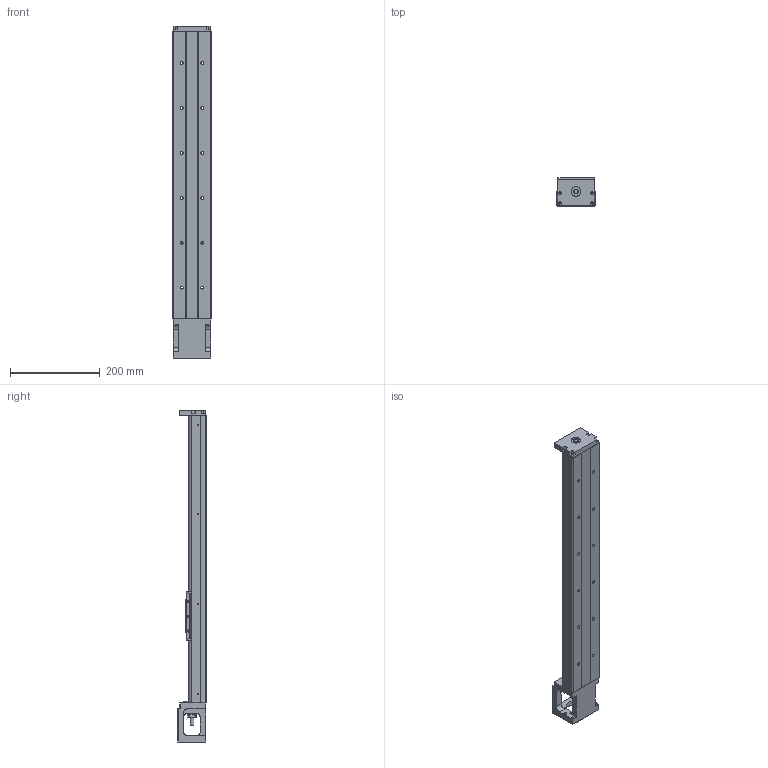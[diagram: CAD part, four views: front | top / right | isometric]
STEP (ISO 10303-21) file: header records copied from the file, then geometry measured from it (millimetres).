
FILE_DESCRIPTION(/* description */ (''),/* implementation_level */ '2;1');
FILE_NAME(/* name */ 'KP46N-640.stp',/* time_stamp */ '2020-06-05T09:54:47+08:00',/* author */ (''),/* organization */ (''),/* preprocessor_version */ 'ST-DEVELOPER v14',/* originating_system */ 'SIEMENS PLM Software NX 8.0',/* authorisation */ '');
FILE_SCHEMA (('AUTOMOTIVE_DESIGN { 1 0 10303 214 3 1 1 1 }'));
Length unit declared in the file: millimetre
Products named in the file (1): model1
Bounding box: 86 x 64 x 740 mm (x, y, z)
Volume: 1519476.8 mm3; surface area: 328684.4 mm2
Topology: 5 solids, 13 shells, 644 faces, 1693 edges, 1107 vertices
Faces by surface type: plane 288, cylinder 233, cone 62, bspline 53, torus 8
Full cylindrical faces by diameter (mm): 2.11 x4, 2.15 x8, 2.42 x8, 3 x6, 3.2 x4, 3.3 x8, 3.4 x8, 4.2 x4, 4.5 x8, 5 x10, 6 x8, 6.35 x2, 6.6 x12, 8 x1, 9.6 x1, 10 x3, 11 x12, 12 x1, 14.95 x2, 15 x1, 16 x2, 22 x3, 27.5 x1, 44 x1, 50 x1
Entity records: 30225 total; most frequent: CARTESIAN_POINT 13034, ORIENTED_EDGE 2896, DIRECTION 2785, EDGE_CURVE 1448, AXIS2_PLACEMENT_3D 1036, VERTEX_POINT 1035, EDGE_LOOP 909, LINE 713
